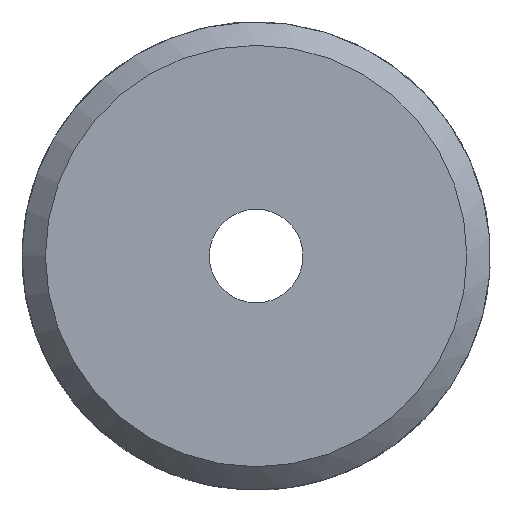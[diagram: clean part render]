
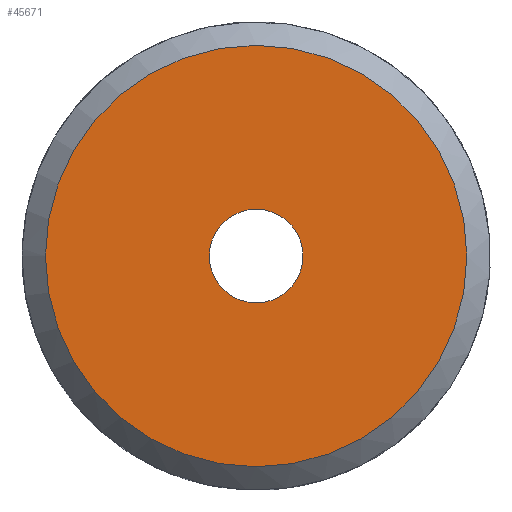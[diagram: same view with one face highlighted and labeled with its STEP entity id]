
A CAD part, left-side view. The second image highlights one B-rep face of the part: STEP entity #45671.
In plain terms, the highlighted planar face has unit normal (-1, 0, 0).
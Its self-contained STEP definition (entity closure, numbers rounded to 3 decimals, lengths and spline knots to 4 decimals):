
#12977=PLANE('',#45159);
#16818=ORIENTED_EDGE('',*,*,#18053,.F.);
#16819=ORIENTED_EDGE('',*,*,#19346,.F.);
#16821=CIRCLE('',#44500,4.5);
#17152=CIRCLE('',#45158,1.);
#17154=VERTEX_POINT('',#21490);
#18051=VERTEX_POINT('',#44493);
#18053=EDGE_CURVE('',#17154,#17154,#16821,.T.);
#19346=EDGE_CURVE('',#18051,#18051,#17152,.T.);
#19751=EDGE_LOOP('',(#16818));
#19752=EDGE_LOOP('',(#16819));
#20157=FACE_BOUND('',#19751,.T.);
#20158=FACE_BOUND('',#19752,.T.);
#20163=DIRECTION('',(1.,0.,0.));
#20164=DIRECTION('',(0.,0.,-4.5));
#21479=DIRECTION('',(-1.,0.,0.));
#21480=DIRECTION('',(0.,0.,1.));
#21481=DIRECTION('',(-1.,0.,0.));
#21482=DIRECTION('',(0.,1.,0.));
#21490=CARTESIAN_POINT('',(52.9157,134.7603,-4.5));
#21491=CARTESIAN_POINT('',(52.9157,134.7603,0.));
#44493=CARTESIAN_POINT('',(52.9157,134.7603,1.));
#44494=CARTESIAN_POINT('',(52.9157,134.7603,0.));
#44495=CARTESIAN_POINT('',(52.9157,134.7603,-4.5));
#44500=AXIS2_PLACEMENT_3D('',#21491,#20163,#20164);
#45158=AXIS2_PLACEMENT_3D('',#44494,#21479,#21480);
#45159=AXIS2_PLACEMENT_3D('',#44495,#21481,#21482);
#45671=ADVANCED_FACE('',(#20157,#20158),#12977,.T.);
